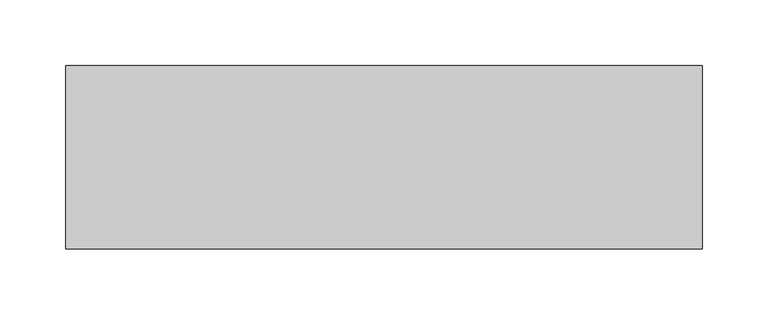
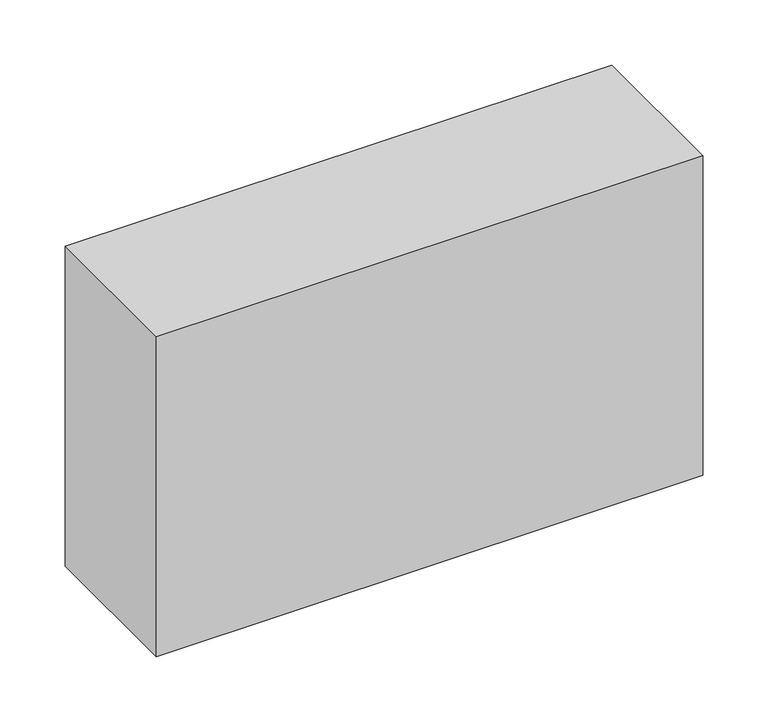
"""IFC4 building model written with IfcOpenShell, lengths in millimetres: proxy geometry."""

from ifc_helpers import new_model, si_unit, frame, origin, place, context, project, spatial, polyline, outline, extrude, source, transform, mapped, element, save


def structural_framing_c8655752(model_context):
    return source(origin(), model_context, "Body", "SweptSolid", [
        extrude(outline(polyline([(-242.5, -70.0), (-242.5, 70.0), (242.5, 70.0), (242.5, -70.0), (-242.5, -70.0)])), frame((0.0, 0.0, -300.0), z_axis=(0.0, 0.0, 1.0), x_axis=(1.0, 0.0, 0.0)), (0.0, 0.0, 1.0), 300.0),
    ])


if __name__ == "__main__":
    model = new_model("IFC4")
    model_context = context("Model", 3, world=origin())
    ifc_project = project(units=[si_unit("LENGTHUNIT", "METRE", prefix="MILLI")], contexts=[model_context])
    site = spatial("IfcSite", under=ifc_project)
    building = spatial("IfcBuilding", under=site)
    placement = place(None, origin())
    structural_framing_shape = structural_framing_c8655752(model_context)
    element("IfcBuildingElementProxy", 1, Name="Structural Framing", at=placement, inside=building, context=model_context, shape_type="MappedRepresentation", body=[
        mapped(structural_framing_shape, transform((0.0, 0.0, 0.0), x_axis=(1.0, 0.0, 0.0), y_axis=(0.0, 1.0, 0.0), z_axis=(0.0, 0.0, 1.0))),
    ])
    save(model, "model.ifc")
